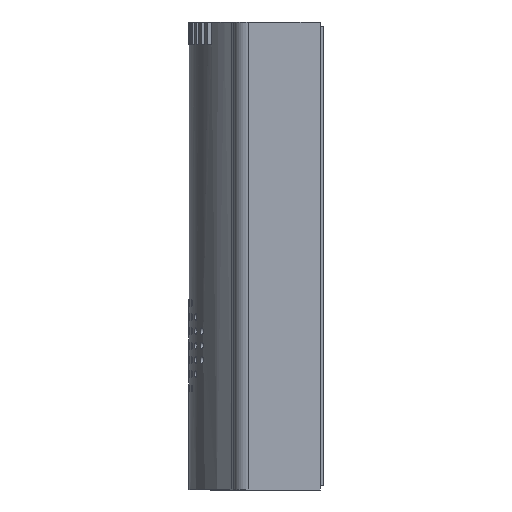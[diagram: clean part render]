
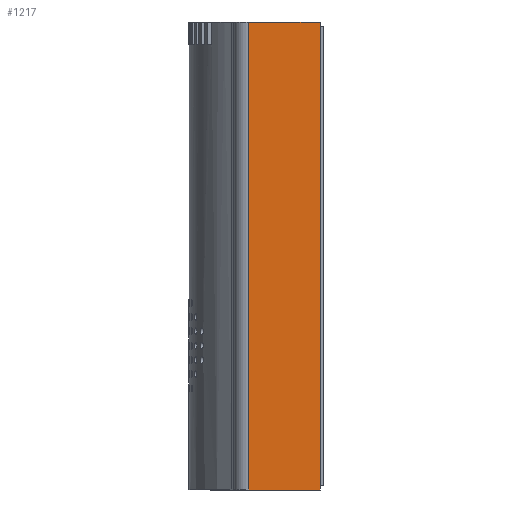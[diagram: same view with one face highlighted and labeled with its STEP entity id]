
A CAD part, left-side view. The second image highlights one B-rep face of the part: STEP entity #1217.
In plain terms, the highlighted planar face has unit normal (-1, 0.018, 0).
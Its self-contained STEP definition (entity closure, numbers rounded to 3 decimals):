
#38 = CARTESIAN_POINT ( 'NONE',  ( -33.25, -43.056, -62.25 ) ) ;
#41 = CARTESIAN_POINT ( 'NONE',  ( -33.25, -43.056, -62.25 ) ) ;
#360 = ORIENTED_EDGE ( 'NONE', *, *, #1296, .T. ) ;
#609 = EDGE_CURVE ( 'NONE', #8524, #6130, #1931, .T. ) ;
#1006 = VECTOR ( 'NONE', #6474, 1000. ) ;
#1031 = DIRECTION ( 'NONE',  ( -1., 0.017, 0. ) ) ;
#1066 = LINE ( 'NONE', #5423, #11102 ) ;
#1217 = ADVANCED_FACE ( 'NONE', ( #2222 ), #9468, .T. ) ;
#1296 = EDGE_CURVE ( 'NONE', #5374, #5039, #6150, .T. ) ;
#1415 = ORIENTED_EDGE ( 'NONE', *, *, #609, .F. ) ;
#1606 = DIRECTION ( 'NONE',  ( 0., 0., 1. ) ) ;
#1931 = LINE ( 'NONE', #2582, #11972 ) ;
#2222 = FACE_OUTER_BOUND ( 'NONE', #9924, .T. ) ;
#2582 = CARTESIAN_POINT ( 'NONE',  ( -33.25, -43.056, 62.25 ) ) ;
#2912 = CARTESIAN_POINT ( 'NONE',  ( -32.917, -23.986, 62.25 ) ) ;
#2960 = CARTESIAN_POINT ( 'NONE',  ( -32.917, -23.986, -62.25 ) ) ;
#2977 = ORIENTED_EDGE ( 'NONE', *, *, #10198, .T. ) ;
#3478 = DIRECTION ( 'NONE',  ( -0.017, -1., 0. ) ) ;
#3961 = DIRECTION ( 'NONE',  ( 0., 0., 1. ) ) ;
#4214 = CARTESIAN_POINT ( 'NONE',  ( -33.25, -43.056, 62.25 ) ) ;
#4693 = EDGE_CURVE ( 'NONE', #5374, #8524, #8536, .T. ) ;
#4942 = CARTESIAN_POINT ( 'NONE',  ( -33.25, -43.056, -62.25 ) ) ;
#5039 = VERTEX_POINT ( 'NONE', #41 ) ;
#5332 = AXIS2_PLACEMENT_3D ( 'NONE', #38, #1031, #3478 ) ;
#5374 = VERTEX_POINT ( 'NONE', #2960 ) ;
#5423 = CARTESIAN_POINT ( 'NONE',  ( -33.25, -43.056, -62.25 ) ) ;
#5934 = VECTOR ( 'NONE', #3961, 1000. ) ;
#6130 = VERTEX_POINT ( 'NONE', #4214 ) ;
#6150 = LINE ( 'NONE', #4942, #1006 ) ;
#6474 = DIRECTION ( 'NONE',  ( -0.017, -1., 0. ) ) ;
#8524 = VERTEX_POINT ( 'NONE', #2912 ) ;
#8536 = LINE ( 'NONE', #9777, #5934 ) ;
#9468 = PLANE ( 'NONE',  #5332 ) ;
#9777 = CARTESIAN_POINT ( 'NONE',  ( -32.917, -23.986, -62.25 ) ) ;
#9924 = EDGE_LOOP ( 'NONE', ( #2977, #1415, #11593, #360 ) ) ;
#10198 = EDGE_CURVE ( 'NONE', #5039, #6130, #1066, .T. ) ;
#10618 = DIRECTION ( 'NONE',  ( -0.017, -1., 0. ) ) ;
#11102 = VECTOR ( 'NONE', #1606, 1000. ) ;
#11593 = ORIENTED_EDGE ( 'NONE', *, *, #4693, .F. ) ;
#11972 = VECTOR ( 'NONE', #10618, 1000. ) ;
